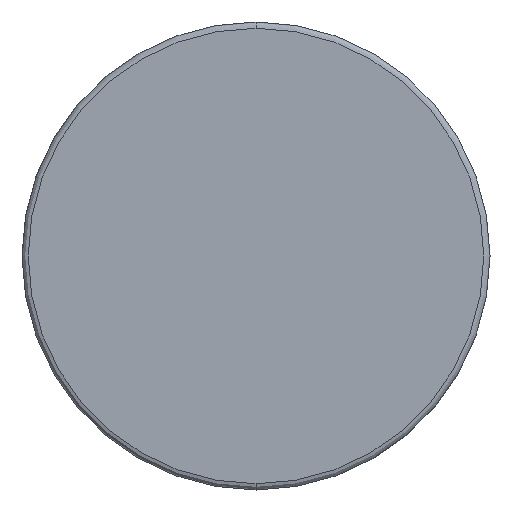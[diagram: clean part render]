
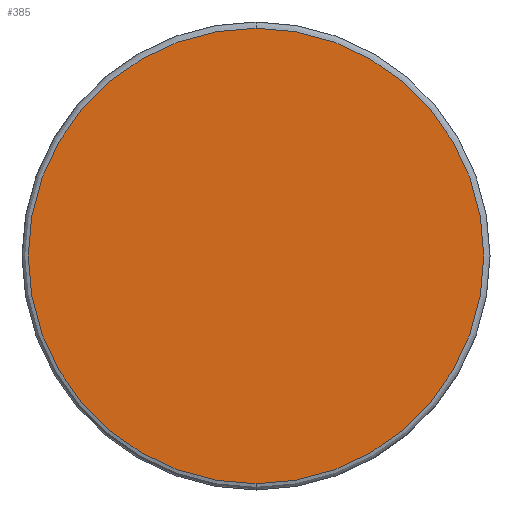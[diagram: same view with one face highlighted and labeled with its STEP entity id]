
A CAD part, front view. The second image highlights one B-rep face of the part: STEP entity #385.
In plain terms, the highlighted planar face has unit normal (0, -1, 0).
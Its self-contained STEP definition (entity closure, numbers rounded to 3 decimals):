
#43 = ORIENTED_EDGE ( 'NONE', *, *, #460, .T. ) ;
#51 = DIRECTION ( 'NONE',  ( 0., 0., 1. ) ) ;
#113 = AXIS2_PLACEMENT_3D ( 'NONE', #761, #405, #51 ) ;
#172 = EDGE_LOOP ( 'NONE', ( #300, #43 ) ) ;
#182 = DIRECTION ( 'NONE',  ( 0., 1., 0. ) ) ;
#218 = VERTEX_POINT ( 'NONE', #260 ) ;
#237 = CIRCLE ( 'NONE', #113, 14.6 ) ;
#260 = CARTESIAN_POINT ( 'NONE',  ( 0., 0., 14.6 ) ) ;
#282 = DIRECTION ( 'NONE',  ( 0., -1., 0. ) ) ;
#300 = ORIENTED_EDGE ( 'NONE', *, *, #322, .T. ) ;
#314 = CARTESIAN_POINT ( 'NONE',  ( 0., 0., -14.6 ) ) ;
#322 = EDGE_CURVE ( 'NONE', #218, #359, #237, .T. ) ;
#334 = FACE_OUTER_BOUND ( 'NONE', #172, .T. ) ;
#351 = AXIS2_PLACEMENT_3D ( 'NONE', #710, #182, #603 ) ;
#359 = VERTEX_POINT ( 'NONE', #314 ) ;
#385 = ADVANCED_FACE ( 'NONE', ( #334 ), #477, .F. ) ;
#405 = DIRECTION ( 'NONE',  ( 0., -1., 0. ) ) ;
#460 = EDGE_CURVE ( 'NONE', #359, #218, #619, .T. ) ;
#477 = PLANE ( 'NONE',  #351 ) ;
#514 = AXIS2_PLACEMENT_3D ( 'NONE', #642, #282, #697 ) ;
#603 = DIRECTION ( 'NONE',  ( 0., 0., 1. ) ) ;
#619 = CIRCLE ( 'NONE', #514, 14.6 ) ;
#642 = CARTESIAN_POINT ( 'NONE',  ( 0., 0., 0. ) ) ;
#697 = DIRECTION ( 'NONE',  ( 0., 0., 1. ) ) ;
#710 = CARTESIAN_POINT ( 'NONE',  ( 0., 0., 0. ) ) ;
#761 = CARTESIAN_POINT ( 'NONE',  ( 0., 0., 0. ) ) ;
